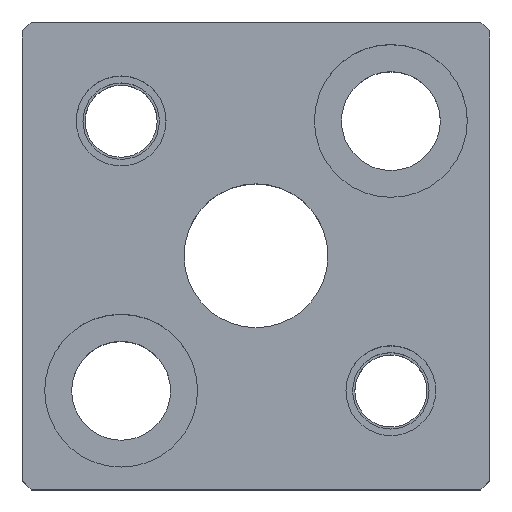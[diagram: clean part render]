
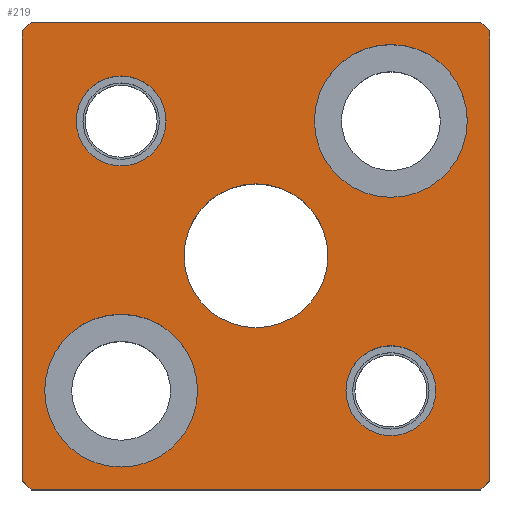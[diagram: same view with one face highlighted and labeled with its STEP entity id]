
A CAD part, top view. The second image highlights one B-rep face of the part: STEP entity #219.
In plain terms, the highlighted planar face has unit normal (0, 0, 1).
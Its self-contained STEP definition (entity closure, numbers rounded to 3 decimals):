
#99=FACE_BOUND('',#325,.T.);
#100=FACE_BOUND('',#326,.T.);
#101=FACE_BOUND('',#327,.T.);
#102=FACE_BOUND('',#328,.T.);
#103=FACE_BOUND('',#329,.T.);
#104=FACE_BOUND('',#330,.T.);
#149=CIRCLE('',#916,5.);
#151=CIRCLE('',#919,5.);
#153=CIRCLE('',#922,5.);
#155=CIRCLE('',#925,5.);
#165=CIRCLE('',#940,8.5);
#166=CIRCLE('',#941,8.5);
#167=CIRCLE('',#942,8.5);
#168=CIRCLE('',#943,8.5);
#169=CIRCLE('',#944,8.);
#170=CIRCLE('',#945,8.);
#219=ADVANCED_FACE('',(#99,#100,#101,#102,#103,#104),#258,.T.);
#258=PLANE('',#946);
#325=EDGE_LOOP('',(#461,#462,#463,#464,#465,#466,#467,#468));
#326=EDGE_LOOP('',(#469,#470));
#327=EDGE_LOOP('',(#471,#472));
#328=EDGE_LOOP('',(#473,#474));
#329=EDGE_LOOP('',(#475,#476));
#330=EDGE_LOOP('',(#477,#478));
#461=ORIENTED_EDGE('',*,*,#683,.T.);
#462=ORIENTED_EDGE('',*,*,#680,.T.);
#463=ORIENTED_EDGE('',*,*,#698,.T.);
#464=ORIENTED_EDGE('',*,*,#695,.T.);
#465=ORIENTED_EDGE('',*,*,#692,.T.);
#466=ORIENTED_EDGE('',*,*,#676,.T.);
#467=ORIENTED_EDGE('',*,*,#673,.T.);
#468=ORIENTED_EDGE('',*,*,#669,.T.);
#469=ORIENTED_EDGE('',*,*,#727,.F.);
#470=ORIENTED_EDGE('',*,*,#728,.F.);
#471=ORIENTED_EDGE('',*,*,#729,.F.);
#472=ORIENTED_EDGE('',*,*,#730,.F.);
#473=ORIENTED_EDGE('',*,*,#713,.F.);
#474=ORIENTED_EDGE('',*,*,#709,.F.);
#475=ORIENTED_EDGE('',*,*,#707,.F.);
#476=ORIENTED_EDGE('',*,*,#703,.F.);
#477=ORIENTED_EDGE('',*,*,#731,.T.);
#478=ORIENTED_EDGE('',*,*,#732,.T.);
#595=VERTEX_POINT('',#1264);
#596=VERTEX_POINT('',#1266);
#599=VERTEX_POINT('',#1274);
#601=VERTEX_POINT('',#1280);
#604=VERTEX_POINT('',#1287);
#605=VERTEX_POINT('',#1289);
#612=VERTEX_POINT('',#1312);
#614=VERTEX_POINT('',#1318);
#617=VERTEX_POINT('',#1333);
#618=VERTEX_POINT('',#1334);
#621=VERTEX_POINT('',#1345);
#622=VERTEX_POINT('',#1346);
#633=VERTEX_POINT('',#1381);
#634=VERTEX_POINT('',#1382);
#635=VERTEX_POINT('',#1385);
#636=VERTEX_POINT('',#1386);
#637=VERTEX_POINT('',#1389);
#638=VERTEX_POINT('',#1390);
#669=EDGE_CURVE('',#596,#595,#781,.T.);
#673=EDGE_CURVE('',#599,#596,#785,.T.);
#676=EDGE_CURVE('',#601,#599,#788,.T.);
#680=EDGE_CURVE('',#605,#604,#792,.T.);
#683=EDGE_CURVE('',#595,#605,#795,.T.);
#692=EDGE_CURVE('',#612,#601,#804,.T.);
#695=EDGE_CURVE('',#614,#612,#807,.T.);
#698=EDGE_CURVE('',#604,#614,#810,.T.);
#703=EDGE_CURVE('',#617,#618,#149,.T.);
#707=EDGE_CURVE('',#618,#617,#151,.T.);
#709=EDGE_CURVE('',#621,#622,#153,.T.);
#713=EDGE_CURVE('',#622,#621,#155,.T.);
#727=EDGE_CURVE('',#633,#634,#165,.T.);
#728=EDGE_CURVE('',#634,#633,#166,.T.);
#729=EDGE_CURVE('',#635,#636,#167,.T.);
#730=EDGE_CURVE('',#636,#635,#168,.T.);
#731=EDGE_CURVE('',#637,#638,#169,.T.);
#732=EDGE_CURVE('',#638,#637,#170,.T.);
#781=LINE('',#1265,#843);
#785=LINE('',#1273,#847);
#788=LINE('',#1279,#850);
#792=LINE('',#1288,#854);
#795=LINE('',#1294,#857);
#804=LINE('',#1311,#866);
#807=LINE('',#1317,#869);
#810=LINE('',#1323,#872);
#843=VECTOR('',#1005,1.);
#847=VECTOR('',#1011,1.);
#850=VECTOR('',#1016,1.);
#854=VECTOR('',#1022,1.);
#857=VECTOR('',#1027,1.);
#866=VECTOR('',#1042,1.);
#869=VECTOR('',#1047,1.);
#872=VECTOR('',#1052,1.);
#916=AXIS2_PLACEMENT_3D('',#1332,#1063,#1064);
#919=AXIS2_PLACEMENT_3D('',#1341,#1071,#1072);
#922=AXIS2_PLACEMENT_3D('',#1344,#1077,#1078);
#925=AXIS2_PLACEMENT_3D('',#1353,#1085,#1086);
#940=AXIS2_PLACEMENT_3D('',#1380,#1119,#1120);
#941=AXIS2_PLACEMENT_3D('',#1383,#1121,#1122);
#942=AXIS2_PLACEMENT_3D('',#1384,#1123,#1124);
#943=AXIS2_PLACEMENT_3D('',#1387,#1125,#1126);
#944=AXIS2_PLACEMENT_3D('',#1388,#1127,#1128);
#945=AXIS2_PLACEMENT_3D('',#1391,#1129,#1130);
#946=AXIS2_PLACEMENT_3D('',#1392,#1131,#1132);
#1005=DIRECTION('',(1.,0.,0.));
#1011=DIRECTION('',(0.707,-0.707,0.));
#1016=DIRECTION('',(0.,-1.,0.));
#1022=DIRECTION('',(0.,1.,0.));
#1027=DIRECTION('',(0.707,0.707,0.));
#1042=DIRECTION('',(-0.707,-0.707,0.));
#1047=DIRECTION('',(-1.,0.,0.));
#1052=DIRECTION('',(-0.707,0.707,0.));
#1063=DIRECTION('',(0.,0.,1.));
#1064=DIRECTION('',(-1.,0.,0.));
#1071=DIRECTION('',(0.,0.,1.));
#1072=DIRECTION('',(1.,0.,0.));
#1077=DIRECTION('',(0.,0.,1.));
#1078=DIRECTION('',(-1.,0.,0.));
#1085=DIRECTION('',(0.,0.,1.));
#1086=DIRECTION('',(1.,0.,0.));
#1119=DIRECTION('',(0.,0.,1.));
#1120=DIRECTION('',(1.,0.,0.));
#1121=DIRECTION('',(0.,0.,1.));
#1122=DIRECTION('',(-1.,0.,0.));
#1123=DIRECTION('',(0.,0.,1.));
#1124=DIRECTION('',(1.,0.,0.));
#1125=DIRECTION('',(0.,0.,1.));
#1126=DIRECTION('',(-1.,0.,0.));
#1127=DIRECTION('',(0.,0.,-1.));
#1128=DIRECTION('',(-1.,0.,0.));
#1129=DIRECTION('',(0.,0.,-1.));
#1130=DIRECTION('',(1.,0.,0.));
#1131=DIRECTION('',(0.,0.,1.));
#1132=DIRECTION('',(-1.,0.,0.));
#1264=CARTESIAN_POINT('',(25.,-26.,30.));
#1265=CARTESIAN_POINT('',(-25.,-26.,30.));
#1266=CARTESIAN_POINT('',(-25.,-26.,30.));
#1273=CARTESIAN_POINT('',(-25.,-26.,30.));
#1274=CARTESIAN_POINT('',(-26.,-25.,30.));
#1279=CARTESIAN_POINT('',(-26.,25.,30.));
#1280=CARTESIAN_POINT('',(-26.,25.,30.));
#1287=CARTESIAN_POINT('',(26.,25.,30.));
#1288=CARTESIAN_POINT('',(26.,25.,30.));
#1289=CARTESIAN_POINT('',(26.,-25.,30.));
#1294=CARTESIAN_POINT('',(26.,-25.,30.));
#1311=CARTESIAN_POINT('',(-26.,25.,30.));
#1312=CARTESIAN_POINT('',(-25.,26.,30.));
#1317=CARTESIAN_POINT('',(-25.,26.,30.));
#1318=CARTESIAN_POINT('',(25.,26.,30.));
#1323=CARTESIAN_POINT('',(25.,26.,30.));
#1332=CARTESIAN_POINT('',(15.,-15.,30.));
#1333=CARTESIAN_POINT('',(15.,-20.,30.));
#1334=CARTESIAN_POINT('',(15.,-10.,30.));
#1341=CARTESIAN_POINT('',(15.,-15.,30.));
#1344=CARTESIAN_POINT('',(-15.,15.,30.));
#1345=CARTESIAN_POINT('',(-15.,10.,30.));
#1346=CARTESIAN_POINT('',(-15.,20.,30.));
#1353=CARTESIAN_POINT('',(-15.,15.,30.));
#1380=CARTESIAN_POINT('',(15.,15.,30.));
#1381=CARTESIAN_POINT('',(15.,23.5,30.));
#1382=CARTESIAN_POINT('',(15.,6.5,30.));
#1383=CARTESIAN_POINT('',(15.,15.,30.));
#1384=CARTESIAN_POINT('',(-15.,-15.,30.));
#1385=CARTESIAN_POINT('',(-15.,-6.5,30.));
#1386=CARTESIAN_POINT('',(-15.,-23.5,30.));
#1387=CARTESIAN_POINT('',(-15.,-15.,30.));
#1388=CARTESIAN_POINT('',(0.,0.,30.));
#1389=CARTESIAN_POINT('',(0.,8.,30.));
#1390=CARTESIAN_POINT('',(0.,-8.,30.));
#1391=CARTESIAN_POINT('',(0.,0.,30.));
#1392=CARTESIAN_POINT('',(25.,-26.,30.));
